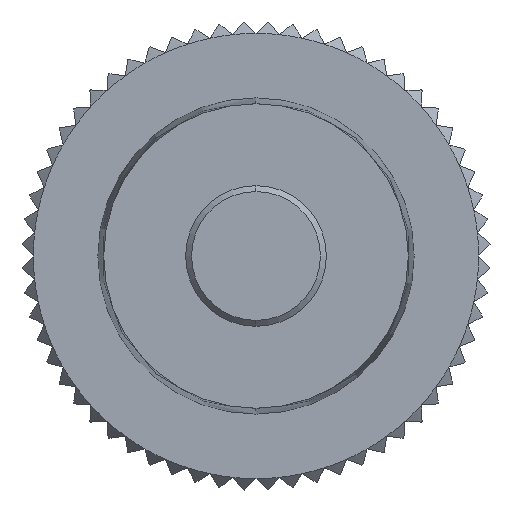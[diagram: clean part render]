
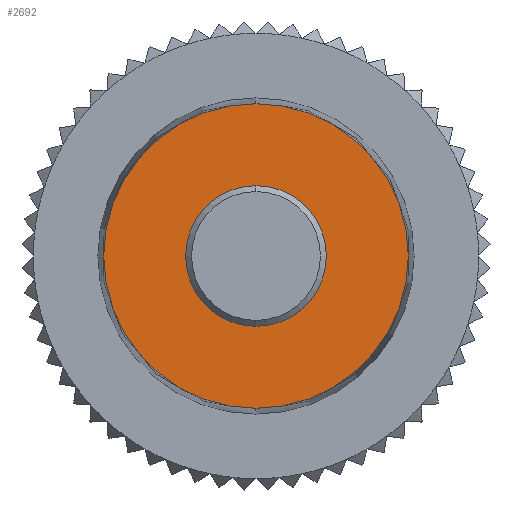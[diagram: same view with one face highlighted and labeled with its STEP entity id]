
A CAD part, front view. The second image highlights one B-rep face of the part: STEP entity #2692.
In plain terms, the highlighted planar face has unit normal (0, -1, 0).
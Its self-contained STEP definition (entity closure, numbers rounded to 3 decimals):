
#34 = ORIENTED_EDGE ( 'NONE', *, *, #7785, .F. ) ;
#121 = ORIENTED_EDGE ( 'NONE', *, *, #7809, .T. ) ;
#174 = EDGE_CURVE ( 'NONE', #536, #970, #7449, .T. ) ;
#191 = AXIS2_PLACEMENT_3D ( 'NONE', #4992, #4416, #3707 ) ;
#325 = PLANE ( 'NONE',  #191 ) ;
#536 = VERTEX_POINT ( 'NONE', #8299 ) ;
#540 = DIRECTION ( 'NONE',  ( 0., -1., 0. ) ) ;
#970 = VERTEX_POINT ( 'NONE', #1979 ) ;
#980 = DIRECTION ( 'NONE',  ( 0., -1., 0. ) ) ;
#1059 = AXIS2_PLACEMENT_3D ( 'NONE', #6395, #980, #2348 ) ;
#1851 = AXIS2_PLACEMENT_3D ( 'NONE', #8191, #540, #6718 ) ;
#1979 = CARTESIAN_POINT ( 'NONE',  ( 0., 0., -3. ) ) ;
#2213 = VERTEX_POINT ( 'NONE', #5324 ) ;
#2348 = DIRECTION ( 'NONE',  ( 0., 0., -1. ) ) ;
#2428 = DIRECTION ( 'NONE',  ( 0., -1., 0. ) ) ;
#2692 = ADVANCED_FACE ( 'NONE', ( #3081, #6954 ), #325, .T. ) ;
#3012 = DIRECTION ( 'NONE',  ( 0., -1., 0. ) ) ;
#3061 = DIRECTION ( 'NONE',  ( 0., 0., -1. ) ) ;
#3081 = FACE_BOUND ( 'NONE', #7412, .T. ) ;
#3703 = CIRCLE ( 'NONE', #4410, 3. ) ;
#3707 = DIRECTION ( 'NONE',  ( 0., 0., -1. ) ) ;
#3845 = CIRCLE ( 'NONE', #1851, 6.5 ) ;
#4410 = AXIS2_PLACEMENT_3D ( 'NONE', #8433, #2428, #7684 ) ;
#4416 = DIRECTION ( 'NONE',  ( 0., -1., 0. ) ) ;
#4641 = VERTEX_POINT ( 'NONE', #5093 ) ;
#4753 = EDGE_LOOP ( 'NONE', ( #5885, #121 ) ) ;
#4973 = CARTESIAN_POINT ( 'NONE',  ( 0., 0., 0. ) ) ;
#4992 = CARTESIAN_POINT ( 'NONE',  ( 0., 0., 0. ) ) ;
#5093 = CARTESIAN_POINT ( 'NONE',  ( 0., 0., 6.5 ) ) ;
#5324 = CARTESIAN_POINT ( 'NONE',  ( 0., 0., -6.5 ) ) ;
#5393 = AXIS2_PLACEMENT_3D ( 'NONE', #4973, #3012, #3061 ) ;
#5885 = ORIENTED_EDGE ( 'NONE', *, *, #8333, .T. ) ;
#6392 = CIRCLE ( 'NONE', #5393, 6.5 ) ;
#6395 = CARTESIAN_POINT ( 'NONE',  ( 0., 0., 0. ) ) ;
#6718 = DIRECTION ( 'NONE',  ( 0., 0., -1. ) ) ;
#6954 = FACE_OUTER_BOUND ( 'NONE', #4753, .T. ) ;
#7412 = EDGE_LOOP ( 'NONE', ( #34, #7485 ) ) ;
#7449 = CIRCLE ( 'NONE', #1059, 3. ) ;
#7485 = ORIENTED_EDGE ( 'NONE', *, *, #174, .F. ) ;
#7684 = DIRECTION ( 'NONE',  ( 0., 0., -1. ) ) ;
#7785 = EDGE_CURVE ( 'NONE', #970, #536, #3703, .T. ) ;
#7809 = EDGE_CURVE ( 'NONE', #2213, #4641, #6392, .T. ) ;
#8191 = CARTESIAN_POINT ( 'NONE',  ( 0., 0., 0. ) ) ;
#8299 = CARTESIAN_POINT ( 'NONE',  ( 0., 0., 3. ) ) ;
#8333 = EDGE_CURVE ( 'NONE', #4641, #2213, #3845, .T. ) ;
#8433 = CARTESIAN_POINT ( 'NONE',  ( 0., 0., 0. ) ) ;
